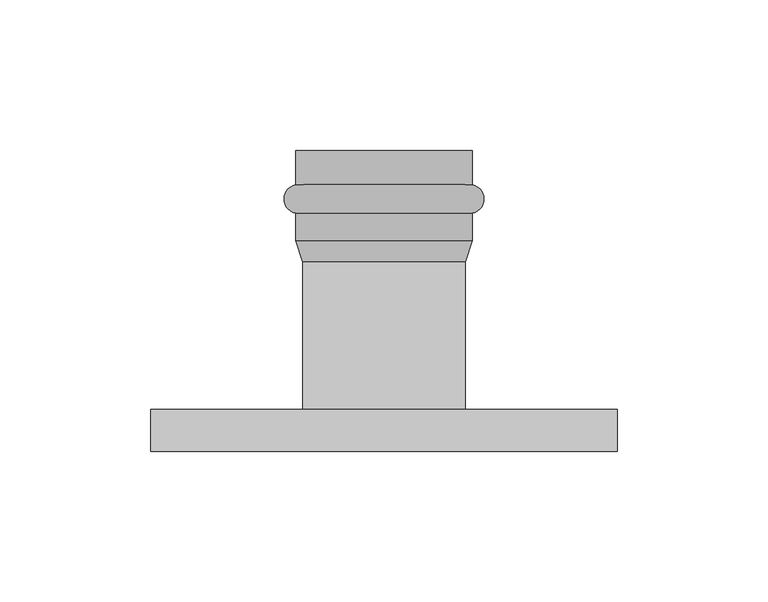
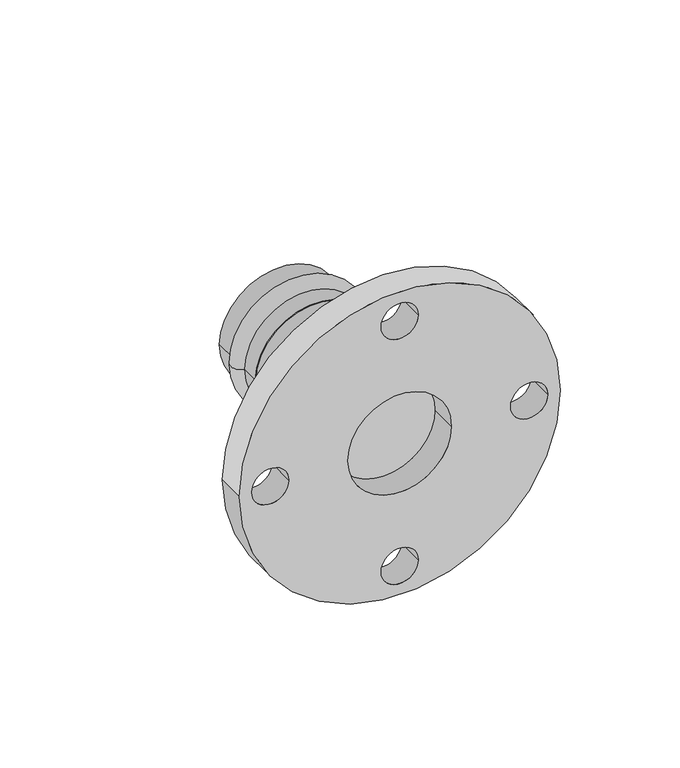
"""IFC4 building model written with IfcOpenShell, lengths in millimetres: pipe fitting geometry, VALTEC_VTi.980.I_Соединитель с переходом на фланец нержавеющая сталь : VTi.980.I."""

import ifcopenshell
import ifcopenshell.guid

model = None  # the IFC model being written
_history = None  # IfcOwnerHistory: only IFC2X3 demands one
_inside = {}  # id of a spatial element -> (the spatial element, [elements in it])
_under = {}  # id of a project, library or spatial element -> (it, [spatial elements below it])
_declared = {}  # id of a project -> (the project, [libraries it declares])
_typed = {}  # id of a type object -> (the type object, [elements of that type])
_made_of = {}  # id of a material, layer set ... -> (it, [elements and type objects made of it])


def new_model(schema):
    """Start an empty IFC model of exactly this schema.

    Asked for "IFC4X3", IfcOpenShell would pick the latest addendum, in which some entities
    have other attributes; the version numbers below select the first issue.
    IFC2X3 requires an IfcOwnerHistory on every rooted entity: one is made here for all.
    """
    global model, _history
    if schema == "IFC4X3":
        model = ifcopenshell.file(schema_version=(4, 3, 0, 0))
    else:
        model = ifcopenshell.file(schema=schema)
    _inside.clear()
    _under.clear()
    _declared.clear()
    _typed.clear()
    _made_of.clear()
    _history = None
    if model.schema == "IFC2X3":
        org = make("IfcOrganization", Name="unknown")
        user = make(
            "IfcPersonAndOrganization",
            ThePerson=make("IfcPerson", FamilyName="unknown"),
            TheOrganization=org,
        )
        app = make(
            "IfcApplication",
            ApplicationDeveloper=org,
            Version="unknown",
            ApplicationFullName="unknown",
            ApplicationIdentifier="unknown",
        )
        _history = make(
            "IfcOwnerHistory",
            OwningUser=user,
            OwningApplication=app,
            ChangeAction="ADDED",
            CreationDate=0,
        )
    return model


def make(cls, **values):
    """One entity of the class cls with the attributes given. An attribute that is None is left unset."""
    return model.create_entity(
        cls, **{name: value for name, value in values.items() if value is not None}
    )


def rooted(cls, **values):
    """An entity with a GlobalId (a new one), such as an element, a storey or a relation."""
    return make(cls, GlobalId=ifcopenshell.guid.new(), OwnerHistory=_history, **values)


def si_unit(unit_type, name, prefix=None):
    """IfcSIUnit, for example si_unit("LENGTHUNIT", "METRE", prefix="MILLI")."""
    return make("IfcSIUnit", UnitType=unit_type, Prefix=prefix, Name=name)


def assignment(units):
    """IfcUnitAssignment: the units of a project."""
    return None if units is None else make("IfcUnitAssignment", Units=units)


def point(xyz):
    """IfcCartesianPoint."""
    return None if xyz is None else make("IfcCartesianPoint", Coordinates=xyz)


def direction(xyz):
    """IfcDirection."""
    return None if xyz is None else make("IfcDirection", DirectionRatios=xyz)


def frame(location, z_axis=None, x_axis=None):
    """IfcAxis2Placement3D, a coordinate frame: its origin and axes. An axis left out is left unset."""
    return make(
        "IfcAxis2Placement3D",
        Location=point(location),
        Axis=direction(z_axis),
        RefDirection=direction(x_axis),
    )


def frame_2d(location, x_axis=None):
    """IfcAxis2Placement2D, a coordinate frame in the plane: its origin and x axis."""
    return make(
        "IfcAxis2Placement2D", Location=point(location), RefDirection=direction(x_axis)
    )


def origin():
    """The frame at (0, 0, 0) with its axes left unset."""
    return frame((0.0, 0.0, 0.0))


def origin_2d():
    """The frame at (0, 0) in the plane with its x axis left unset."""
    return frame_2d((0.0, 0.0))


def place(relative_to, where):
    """IfcLocalPlacement: puts the frame where relative to a parent placement (None: the world)."""
    return make(
        "IfcLocalPlacement", PlacementRelTo=relative_to, RelativePlacement=where
    )


def context(
    kind, dimensions, precision=None, world=None, true_north=None, identifier=None
):
    """IfcGeometricRepresentationContext, for example the 3D "Model" context."""
    return make(
        "IfcGeometricRepresentationContext",
        ContextIdentifier=identifier,
        ContextType=kind,
        CoordinateSpaceDimension=dimensions,
        Precision=precision,
        WorldCoordinateSystem=world,
        TrueNorth=true_north,
    )


def project(units=None, contexts=None):
    """IfcProject with its units and contexts."""
    return rooted(
        "IfcProject",
        Name="project",
        RepresentationContexts=contexts,
        UnitsInContext=assignment(units),
    )


def spatial(cls, under=None, at=None, **own):
    """A site, building, storey or space (cls), placed at a placement, below another one or the project."""
    s = rooted(cls, ObjectPlacement=at, **own)
    if under is not None:
        _under.setdefault(under.id(), (under, []))[1].append(s)
    return s


def polyline(points):
    """IfcPolyline through the points."""
    return make("IfcPolyline", Points=[point(p) for p in points])


def circle_curve(where, radius):
    """IfcCircle in the frame where."""
    return make("IfcCircle", Position=where, Radius=radius)


def ellipse_curve(where, semi_axis1, semi_axis2):
    """IfcEllipse in the frame where."""
    return make(
        "IfcEllipse", Position=where, SemiAxis1=semi_axis1, SemiAxis2=semi_axis2
    )


def trimmed(basis, trim1, trim2, sense, master):
    """IfcTrimmedCurve: the piece of a basis curve between two trims."""
    return make(
        "IfcTrimmedCurve",
        BasisCurve=basis,
        Trim1=trim1,
        Trim2=trim2,
        SenseAgreement=sense,
        MasterRepresentation=master,
    )


def segment(curve, same_sense, transition):
    """IfcCompositeCurveSegment."""
    return make(
        "IfcCompositeCurveSegment",
        Transition=transition,
        SameSense=same_sense,
        ParentCurve=curve,
    )


def composite_curve(segments, self_intersect=None):
    """IfcCompositeCurve: segments joined end to end."""
    return make("IfcCompositeCurve", Segments=segments, SelfIntersect=self_intersect)


def outline(outer, holes=None, kind="AREA"):
    """IfcArbitraryClosedProfileDef: a profile drawn as a closed curve; with holes, ...WithVoids."""
    if holes is None:
        return make("IfcArbitraryClosedProfileDef", ProfileType=kind, OuterCurve=outer)
    return make(
        "IfcArbitraryProfileDefWithVoids",
        ProfileType=kind,
        OuterCurve=outer,
        InnerCurves=holes,
    )


def extrude(swept, where, along, depth):
    """IfcExtrudedAreaSolid: the profile swept, set in the frame where, extruded along a direction by depth."""
    return make(
        "IfcExtrudedAreaSolid",
        SweptArea=swept,
        Position=where,
        ExtrudedDirection=direction(along),
        Depth=depth,
    )


def shape(context_of_items, identifier, shape_type, items):
    """IfcShapeRepresentation: the items that make up one representation, for example the "Body"."""
    return make(
        "IfcShapeRepresentation",
        ContextOfItems=context_of_items,
        RepresentationIdentifier=identifier,
        RepresentationType=shape_type,
        Items=items,
    )


def source(mapping_origin, context_of_items, identifier, shape_type, items):
    """IfcRepresentationMap: a shape defined once, which mapped items show again and again."""
    return make(
        "IfcRepresentationMap",
        MappingOrigin=mapping_origin,
        MappedRepresentation=shape(context_of_items, identifier, shape_type, items),
    )


def transform(
    local_origin,
    x_axis=None,
    y_axis=None,
    z_axis=None,
    scale=None,
    scale2=None,
    scale3=None,
    uniform=True,
):
    """IfcCartesianTransformationOperator3D, or its non-uniform kind. x_axis, y_axis, z_axis: its Axis1, 2, 3."""
    if uniform:
        return make(
            "IfcCartesianTransformationOperator3D",
            Axis1=direction(x_axis),
            Axis2=direction(y_axis),
            LocalOrigin=point(local_origin),
            Scale=scale,
            Axis3=direction(z_axis),
        )
    return make(
        "IfcCartesianTransformationOperator3DnonUniform",
        Axis1=direction(x_axis),
        Axis2=direction(y_axis),
        LocalOrigin=point(local_origin),
        Scale=scale,
        Axis3=direction(z_axis),
        Scale2=scale2,
        Scale3=scale3,
    )


def mapped(mapping_source, mapping_target):
    """IfcMappedItem: shows the shape of a source again, moved by a transform."""
    return make(
        "IfcMappedItem", MappingSource=mapping_source, MappingTarget=mapping_target
    )


def made_of(thing, what):
    """Note that an element or type object is made of a material, layer set ...; save() writes the relation."""
    if what is not None:
        _made_of.setdefault(what.id(), (what, []))[1].append(thing)
    return thing


def element(
    cls,
    number,
    at=None,
    inside=None,
    cuts=None,
    type_object=None,
    material=None,
    context=None,
    identifier="Body",
    shape_type=None,
    held_by="IfcProductDefinitionShape",
    body=None,
    shapes=None,
    **own,
):
    """One element of the class cls, such as IfcWall. Its Tag is "e" and its number.

    at: its placement. inside: the storey or other place that contains it. cuts: it is an
    opening in that element (IfcRelVoidsElement). A single representation is given by context,
    identifier, shape_type and body (its items); several are given by shapes. held_by: the class
    of the entity that holds the representations. save() writes the other relations.
    """
    e = rooted(cls, Tag="e%d" % number, ObjectPlacement=at, **own)
    if body is not None:
        shapes = [shape(context, identifier, shape_type, body)]
    if shapes is not None:
        e.Representation = make(held_by, Representations=shapes)
    if inside is not None:
        _inside.setdefault(inside.id(), (inside, []))[1].append(e)
    if cuts is not None:
        rooted(
            "IfcRelVoidsElement", RelatingBuildingElement=cuts, RelatedOpeningElement=e
        )
    if type_object is not None:
        _typed.setdefault(type_object.id(), (type_object, []))[1].append(e)
    return made_of(e, material)


def aggregate(whole, parts):
    """IfcRelAggregates: a whole, such as a stair, and the parts it consists of."""
    return rooted("IfcRelAggregates", RelatingObject=whole, RelatedObjects=parts)


def save(model, path):
    """Write the relations noted so far, then the file.

    IfcRelAggregates (storeys below a building ...), IfcRelContainedInSpatialStructure (elements
    in a storey), IfcRelDefinesByType, IfcRelAssociatesMaterial and IfcRelDeclares: one each for
    every whole, place, type object, material and project.
    """
    for whole, parts in _under.values():
        aggregate(whole, parts)
    for where, things in _inside.values():
        rooted(
            "IfcRelContainedInSpatialStructure",
            RelatedElements=things,
            RelatingStructure=where,
        )
    for kind, things in _typed.values():
        rooted("IfcRelDefinesByType", RelatedObjects=things, RelatingType=kind)
    for what, things in _made_of.values():
        rooted("IfcRelAssociatesMaterial", RelatedObjects=things, RelatingMaterial=what)
    for by, libraries in _declared.values():
        rooted("IfcRelDeclares", RelatingContext=by, RelatedDefinitions=libraries)
    model.write(path)


def plane_surface(at):
    """IfcPlane: the flat surface through the origin of the frame at, square to its z axis."""
    return make("IfcPlane", Position=at)


def cylinder_surface(at, radius):
    """IfcCylindricalSurface: all points at the distance radius from the z axis of the frame at."""
    return make("IfcCylindricalSurface", Position=at, Radius=radius)


def revolved_surface(curve, axis_point, axis_direction):
    """IfcSurfaceOfRevolution: the curve turned about the line through axis_point along axis_direction."""
    return make(
        "IfcSurfaceOfRevolution",
        SweptCurve=make("IfcArbitraryOpenProfileDef", ProfileType="CURVE", Curve=curve),
        AxisPosition=make("IfcAxis1Placement", Location=point(axis_point), Axis=direction(axis_direction)),
    )


def advanced_brep(points, edges, surfaces, faces):
    """IfcAdvancedBrep: a solid bounded by faces that lie on surfaces and meet in shared edges.

    An edge is (start, end): straight between two places in points (the first is 0);
    or (start, end, curve); or (start, end, curve, False) where it runs against its curve.
    A face is (place in surfaces, loops), or (place, loops, False) where it looks against
    its surface's normal. A loop lists edges by number (the first is 1), with a minus sign
    where the edge is run from its end to its start. The first loop is the outer one.
    """
    corners = [point(p) for p in points]
    vertices = [make("IfcVertexPoint", VertexGeometry=c) for c in corners]
    made = []
    for start, end, *more in edges:
        made.append(
            make(
                "IfcEdgeCurve",
                EdgeStart=vertices[start],
                EdgeEnd=vertices[end],
                EdgeGeometry=more[0] if more else make("IfcPolyline", Points=[corners[start], corners[end]]),
                SameSense=more[1] if len(more) > 1 else True,
            )
        )
    hull = []
    for where, loops, *sense in faces:
        bounds = []
        for j, loop in enumerate(loops):
            ring = [make("IfcOrientedEdge", EdgeElement=made[abs(k) - 1], Orientation=k > 0) for k in loop]
            bounds.append(
                make(
                    "IfcFaceOuterBound" if j == 0 else "IfcFaceBound",
                    Bound=make("IfcEdgeLoop", EdgeList=ring),
                    Orientation=True,
                )
            )
        hull.append(make("IfcAdvancedFace", Bounds=bounds, FaceSurface=surfaces[where], SameSense=sense[0] if sense else True))
    return make("IfcAdvancedBrep", Outer=make("IfcClosedShell", CfsFaces=hull))


def pipe_fitting_60b9f955(model_context):
    return source(origin(), model_context, "Body", "SolidModel", [
        advanced_brep(
        [(-29.3, 88.6148701, 0.0), (29.3, 88.6148701, 0.0), (29.3, 79.1851299, 0.0), (-29.3, 79.1851299, 0.0), (-29.3, 100.0, 0.0), (29.3, 100.0, 0.0), (-27.0, 100.0, 0.0), (27.0, 100.0, 0.0), (-27.0, 70.0, 0.0), (27.0, 70.0, 0.0), (-29.3, 70.0, 0.0), (29.3, 70.0, 0.0)],
        [
            (0, 1, circle_curve(frame((0.0, 88.6148701, 0.0), z_axis=(0.0, -1.0, 0.0), x_axis=(1.0, 0.0, 0.0)), 29.3)),
            (1, 2, circle_curve(frame((28.4, 83.9, 0.0), z_axis=(0.0, 0.0, -1.0), x_axis=(0.0, -1.0, 0.0)), 4.8)),
            (2, 3, circle_curve(frame((0.0, 79.1851299, 0.0), z_axis=(0.0, 1.0, 0.0), x_axis=(1.0, 0.0, 0.0)), 29.3)),
            (3, 0, circle_curve(frame((-28.4, 83.9, 0.0), z_axis=(0.0, 0.0, -1.0), x_axis=(0.0, -1.0, 0.0)), 4.8)),
            (1, 0, circle_curve(frame((0.0, 88.6148701, 0.0), z_axis=(0.0, -1.0, 0.0), x_axis=(1.0, 0.0, 0.0)), 29.3)),
            (3, 2, circle_curve(frame((0.0, 79.1851299, 0.0), z_axis=(0.0, 1.0, 0.0), x_axis=(1.0, 0.0, 0.0)), 29.3)),
            (4, 5, circle_curve(frame((0.0, 100.0, 0.0), z_axis=(0.0, -1.0, 0.0), x_axis=(1.0, 0.0, 0.0)), 29.3)),
            (5, 1),
            (0, 4),
            (5, 4, circle_curve(frame((0.0, 100.0, 0.0), z_axis=(0.0, -1.0, 0.0), x_axis=(1.0, 0.0, 0.0)), 29.3)),
            (6, 7, circle_curve(frame((0.0, 100.0, 0.0), z_axis=(0.0, -1.0, 0.0), x_axis=(1.0, 0.0, 0.0)), 27.0)),
            (7, 5),
            (4, 6),
            (7, 6, circle_curve(frame((0.0, 100.0, 0.0), z_axis=(0.0, -1.0, 0.0), x_axis=(1.0, 0.0, 0.0)), 27.0)),
            (8, 9, circle_curve(frame((0.0, 70.0, 0.0), z_axis=(0.0, -1.0, 0.0), x_axis=(1.0, 0.0, 0.0)), 27.0)),
            (9, 7),
            (6, 8),
            (9, 8, circle_curve(frame((0.0, 70.0, 0.0), z_axis=(0.0, -1.0, 0.0), x_axis=(1.0, 0.0, 0.0)), 27.0)),
            (10, 11, circle_curve(frame((0.0, 70.0, 0.0), z_axis=(0.0, -1.0, 0.0), x_axis=(1.0, 0.0, 0.0)), 29.3)),
            (11, 9),
            (8, 10),
            (11, 10, circle_curve(frame((0.0, 70.0, 0.0), z_axis=(0.0, -1.0, 0.0), x_axis=(1.0, 0.0, 0.0)), 29.3)),
            (2, 11),
            (10, 3),
        ],
        [
            revolved_surface(trimmed(ellipse_curve(frame((28.4, 83.9, 0.0), z_axis=(0.0, 0.0, 1.0), x_axis=(0.0, -1.0, 0.0)), 4.8, 4.8), [point((29.3, 79.1851299, 0.0))], [point((29.3, 88.6148701, 0.0))], True, "CARTESIAN"), (0.0, 103.5364426, 0.0), (0.0, 1.0, 0.0)),
            cylinder_surface(frame((0.0, 103.5364426, 0.0), z_axis=(0.0, 1.0, 0.0), x_axis=(1.0, 0.0, 0.0)), 29.3),
            plane_surface(frame((0.0, 100.0, 0.0), z_axis=(0.0, 1.0, 0.0), x_axis=(1.0, 0.0, 0.0))),
            revolved_surface(polyline([(27.0, 100.0, 0.0), (27.0, 70.0, 0.0)]), (0.0, 103.5364426, 0.0), (0.0, 1.0, 0.0)),
            plane_surface(frame((0.0, 70.0, 0.0), z_axis=(0.0, -1.0, 0.0), x_axis=(1.0, 0.0, 0.0))),
        ],
        [
            (0, [[1, 2, 3, 4]]),
            (0, [[5, -4, 6, -2]]),
            (1, [[7, 8, -1, 9]]),
            (1, [[10, -9, -5, -8]]),
            (2, [[11, 12, -7, 13]]),
            (2, [[14, -13, -10, -12]]),
            (3, [[15, 16, -11, 17]]),
            (3, [[18, -17, -14, -16]]),
            (4, [[19, 20, -15, 21]]),
            (4, [[22, -21, -18, -20]]),
            (1, [[-3, 23, -19, 24]]),
            (1, [[-6, -24, -22, -23]]),
        ],
    ),
        extrude(outline(composite_curve([segment(trimmed(circle_curve(origin_2d(), 27.0), [point((0.0, -27.0))], [point((0.0, 27.0))], False, "CARTESIAN"), True, "CONTINUOUS"), segment(trimmed(circle_curve(origin_2d(), 27.0), [point((0.0, 27.0))], [point((0.0, -27.0))], False, "CARTESIAN"), True, "CONTINUOUS")], self_intersect=False)), frame((0.0, 14.0, 0.0), z_axis=(0.0, 1.0, 0.0), x_axis=(0.0, 0.0, 1.0)), (0.0, 0.0, 1.0), 49.0),
        advanced_brep(
        [(-29.3, 70.0, 0.0), (29.3, 70.0, 0.0), (-27.0, 63.0, 0.0), (27.0, 63.0, 0.0)],
        [
            (0, 1, circle_curve(frame((0.0, 70.0, 0.0), z_axis=(0.0, 1.0, 0.0), x_axis=(-1.0, 0.0, 0.0)), 29.3)),
            (1, 0, circle_curve(frame((0.0, 70.0, 0.0), z_axis=(0.0, 1.0, 0.0), x_axis=(1.0, 0.0, 0.0)), 29.3)),
            (2, 3, circle_curve(frame((0.0, 63.0, 0.0), z_axis=(0.0, -1.0, 0.0), x_axis=(1.0, 0.0, 0.0)), 27.0)),
            (3, 2, circle_curve(frame((0.0, 63.0, 0.0), z_axis=(0.0, -1.0, 0.0), x_axis=(-1.0, 0.0, 0.0)), 27.0)),
            (2, 0),
            (1, 3),
        ],
        [
            plane_surface(frame((0.0, 70.0, 0.0), z_axis=(0.0, 1.0, 0.0), x_axis=(0.0, 0.0, -1.0))),
            plane_surface(frame((0.0, 63.0, 0.0), z_axis=(0.0, -1.0, 0.0), x_axis=(0.0, 0.0, -1.0))),
            revolved_surface(polyline([(-26.999999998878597, 63.0, 0.0), (-29.3, 70.0, 0.0)]), (0.0, -19.173913, 0.0), (0.0, 1.0, 0.0)),
            revolved_surface(polyline([(26.999999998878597, 63.0, 0.0), (29.3, 70.0, 0.0)]), (0.0, -19.173913, 0.0), (0.0, 1.0, 0.0)),
        ],
        [
            (0, [[1, 2]]),
            (1, [[3, 4]]),
            (2, [[-3, 5, -2, 6]]),
            (3, [[-4, -6, -1, -5]]),
        ],
    ),
        extrude(outline(composite_curve([segment(trimmed(circle_curve(origin_2d(), 77.5), [point((0.0, -77.5))], [point((0.0, 77.5))], False, "CARTESIAN"), True, "CONTINUOUS"), segment(trimmed(circle_curve(origin_2d(), 77.5), [point((0.0, 77.5))], [point((0.0, -77.5))], False, "CARTESIAN"), True, "CONTINUOUS")], self_intersect=False), holes=[composite_curve([segment(trimmed(circle_curve(frame_2d((0.0, -62.5)), 9.0), [point((0.0, -71.5))], [point((0.0, -53.5))], True, "CARTESIAN"), True, "CONTINUOUS"), segment(trimmed(circle_curve(frame_2d((0.0, -62.5)), 9.0), [point((0.0, -53.5))], [point((0.0, -71.5))], True, "CARTESIAN"), True, "CONTINUOUS")], self_intersect=False), composite_curve([segment(trimmed(circle_curve(frame_2d((-62.5, 0.0)), 9.0), [point((-62.5, -9.0))], [point((-62.5, 9.0))], True, "CARTESIAN"), True, "CONTINUOUS"), segment(trimmed(circle_curve(frame_2d((-62.5, 0.0)), 9.0), [point((-62.5, 9.0))], [point((-62.5, -9.0))], True, "CARTESIAN"), True, "CONTINUOUS")], self_intersect=False), composite_curve([segment(trimmed(circle_curve(frame_2d((0.0, 62.5)), 9.0), [point((0.0, 53.5))], [point((0.0, 71.5))], True, "CARTESIAN"), True, "CONTINUOUS"), segment(trimmed(circle_curve(frame_2d((0.0, 62.5)), 9.0), [point((0.0, 71.5))], [point((0.0, 53.5))], True, "CARTESIAN"), True, "CONTINUOUS")], self_intersect=False), composite_curve([segment(trimmed(circle_curve(frame_2d((62.5, 0.0)), 9.0), [point((62.5, -9.0))], [point((62.5, 9.0))], True, "CARTESIAN"), True, "CONTINUOUS"), segment(trimmed(circle_curve(frame_2d((62.5, 0.0)), 9.0), [point((62.5, 9.0))], [point((62.5, -9.0))], True, "CARTESIAN"), True, "CONTINUOUS")], self_intersect=False), composite_curve([segment(trimmed(circle_curve(origin_2d(), 25.0), [point((0.0, -25.0))], [point((0.0, 25.0))], True, "CARTESIAN"), True, "CONTINUOUS"), segment(trimmed(circle_curve(origin_2d(), 25.0), [point((0.0, 25.0))], [point((0.0, -25.0))], True, "CARTESIAN"), True, "CONTINUOUS")], self_intersect=False)]), frame((0.0, 0.0, 0.0), z_axis=(0.0, 1.0, 0.0), x_axis=(0.0, 0.0, 1.0)), (0.0, 0.0, 1.0), 14.0),
    ])


if __name__ == "__main__":
    model = new_model("IFC4")
    model_context = context("Model", 3, world=origin())
    ifc_project = project(units=[si_unit("LENGTHUNIT", "METRE", prefix="MILLI")], contexts=[model_context])
    site = spatial("IfcSite", under=ifc_project)
    building = spatial("IfcBuilding", under=site)
    placement = place(None, origin())
    pipe_fitting_shape = pipe_fitting_60b9f955(model_context)
    element("IfcPipeFitting", 1, ObjectType="VALTEC_VTi.980.I_Соединитель с переходом на фланец нержавеющая сталь : VTi.980.I", at=placement, inside=building, context=model_context, shape_type="MappedRepresentation", body=[
        mapped(pipe_fitting_shape, transform((0.0, 0.0, 0.0), x_axis=(1.0, 0.0, 0.0), y_axis=(0.0, 1.0, 0.0), z_axis=(0.0, 0.0, 1.0))),
    ])
    save(model, "model.ifc")
